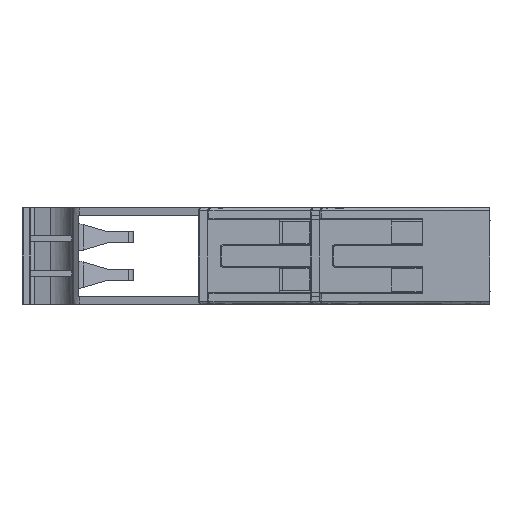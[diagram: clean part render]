
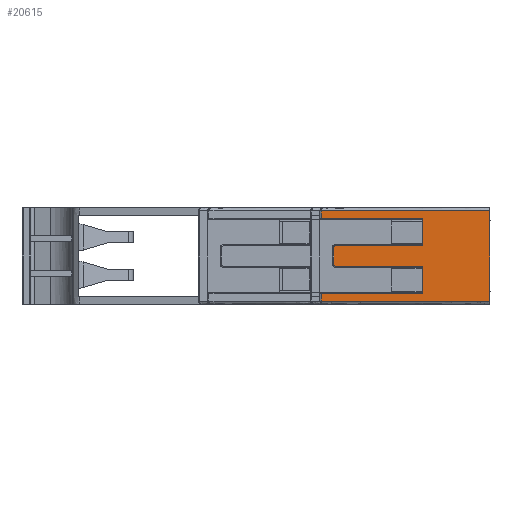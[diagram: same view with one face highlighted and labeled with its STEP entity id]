
A CAD part, left-side view. The second image highlights one B-rep face of the part: STEP entity #20615.
In plain terms, the highlighted free-form (B-spline) face has degree [1, 1] with [2, 2] control points.
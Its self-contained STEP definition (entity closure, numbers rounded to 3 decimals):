
#9759=CARTESIAN_POINT('',(367.964,189.408,-0.6));
#9760=VERTEX_POINT('',#9759);
#9761=CARTESIAN_POINT('',(368.119,216.509,-0.6));
#9762=VERTEX_POINT('',#9761);
#9763=CARTESIAN_POINT('',(367.964,189.408,-0.6));
#9764=CARTESIAN_POINT('',(368.119,216.509,-0.6));
#9765=QUASI_UNIFORM_CURVE('',1,(#9763,#9764),.UNSPECIFIED.,.F.,.U.);
#9766=EDGE_CURVE('',#9760,#9762,#9765,.T.);
#17047=CARTESIAN_POINT('',(367.964,189.408,13.9));
#17048=VERTEX_POINT('',#17047);
#17069=CARTESIAN_POINT('',(368.119,216.509,13.9));
#17070=VERTEX_POINT('',#17069);
#17081=CARTESIAN_POINT('',(367.964,189.408,13.9));
#17082=CARTESIAN_POINT('',(368.119,216.509,13.9));
#17083=QUASI_UNIFORM_CURVE('',1,(#17081,#17082),.UNSPECIFIED.,.F.,.U.);
#17084=EDGE_CURVE('',#17048,#17070,#17083,.T.);
#17194=CARTESIAN_POINT('',(367.964,189.408,13.9));
#17195=CARTESIAN_POINT('',(367.964,189.408,-0.6));
#17196=QUASI_UNIFORM_CURVE('',1,(#17194,#17195),.UNSPECIFIED.,.F.,.U.);
#17197=EDGE_CURVE('',#17048,#9760,#17196,.T.);
#19790=CARTESIAN_POINT('',(368.119,216.509,0.64));
#19791=VERTEX_POINT('',#19790);
#19807=CARTESIAN_POINT('',(368.026,200.207,0.64));
#19808=VERTEX_POINT('',#19807);
#19809=CARTESIAN_POINT('',(368.026,200.207,0.64));
#19810=CARTESIAN_POINT('',(368.119,216.509,0.64));
#19811=QUASI_UNIFORM_CURVE('',1,(#19809,#19810),.UNSPECIFIED.,.F.,.U.);
#19812=EDGE_CURVE('',#19808,#19791,#19811,.T.);
#19950=CARTESIAN_POINT('',(368.119,216.509,0.64));
#19951=CARTESIAN_POINT('',(368.119,216.509,-0.6));
#19952=QUASI_UNIFORM_CURVE('',1,(#19950,#19951),.UNSPECIFIED.,.F.,.U.);
#19953=EDGE_CURVE('',#19791,#9762,#19952,.T.);
#20082=CARTESIAN_POINT('',(368.106,214.208,8.26));
#20083=VERTEX_POINT('',#20082);
#20099=CARTESIAN_POINT('',(368.026,200.207,8.26));
#20100=VERTEX_POINT('',#20099);
#20101=CARTESIAN_POINT('',(368.026,200.207,8.26));
#20102=CARTESIAN_POINT('',(368.106,214.208,8.26));
#20103=QUASI_UNIFORM_CURVE('',1,(#20101,#20102),.UNSPECIFIED.,.F.,.U.);
#20104=EDGE_CURVE('',#20100,#20083,#20103,.T.);
#20144=CARTESIAN_POINT('',(368.026,200.207,5.04));
#20145=VERTEX_POINT('',#20144);
#20146=CARTESIAN_POINT('',(368.026,200.207,0.64));
#20147=CARTESIAN_POINT('',(368.026,200.207,5.04));
#20148=QUASI_UNIFORM_CURVE('',1,(#20146,#20147),.UNSPECIFIED.,.F.,.U.);
#20149=EDGE_CURVE('',#19808,#20145,#20148,.T.);
#20189=CARTESIAN_POINT('',(368.106,214.208,5.04));
#20190=VERTEX_POINT('',#20189);
#20191=CARTESIAN_POINT('',(368.106,214.208,5.04));
#20192=CARTESIAN_POINT('',(368.026,200.207,5.04));
#20193=QUASI_UNIFORM_CURVE('',1,(#20191,#20192),.UNSPECIFIED.,.F.,.U.);
#20194=EDGE_CURVE('',#20190,#20145,#20193,.T.);
#20384=CARTESIAN_POINT('',(368.108,214.508,7.96));
#20385=VERTEX_POINT('',#20384);
#20393=CARTESIAN_POINT('',(368.108,214.508,7.96));
#20394=CARTESIAN_POINT('',(368.108,214.508,8.012));
#20395=CARTESIAN_POINT('',(368.107,214.48,8.117));
#20396=CARTESIAN_POINT('',(368.107,214.365,8.232));
#20397=CARTESIAN_POINT('',(368.106,214.261,8.26));
#20398=CARTESIAN_POINT('',(368.106,214.208,8.26));
#20399=B_SPLINE_CURVE_WITH_KNOTS('',3,(#20393,#20394,#20395,#20396,#20397,#20398),.UNSPECIFIED.,.F.,.U.,(4,1,1,4),(0.,0.157,0.314,0.471),.UNSPECIFIED.);
#20400=EDGE_CURVE('',#20385,#20083,#20399,.T.);
#20422=CARTESIAN_POINT('',(368.108,214.508,5.34));
#20423=VERTEX_POINT('',#20422);
#20437=CARTESIAN_POINT('',(368.108,214.508,7.96));
#20438=CARTESIAN_POINT('',(368.108,214.508,5.34));
#20439=QUASI_UNIFORM_CURVE('',1,(#20437,#20438),.UNSPECIFIED.,.F.,.U.);
#20440=EDGE_CURVE('',#20385,#20423,#20439,.T.);
#20498=CARTESIAN_POINT('',(368.106,214.208,5.04));
#20499=CARTESIAN_POINT('',(368.106,214.261,5.04));
#20500=CARTESIAN_POINT('',(368.107,214.365,5.068));
#20501=CARTESIAN_POINT('',(368.107,214.48,5.183));
#20502=CARTESIAN_POINT('',(368.108,214.508,5.288));
#20503=CARTESIAN_POINT('',(368.108,214.508,5.34));
#20504=B_SPLINE_CURVE_WITH_KNOTS('',3,(#20498,#20499,#20500,#20501,#20502,#20503),.UNSPECIFIED.,.F.,.U.,(4,1,1,4),(-0.471,-0.314,-0.157,0.),.UNSPECIFIED.);
#20505=EDGE_CURVE('',#20190,#20423,#20504,.T.);
#20528=CARTESIAN_POINT('',(368.026,200.207,12.66));
#20529=VERTEX_POINT('',#20528);
#20530=CARTESIAN_POINT('',(368.026,200.207,8.26));
#20531=CARTESIAN_POINT('',(368.026,200.207,12.66));
#20532=QUASI_UNIFORM_CURVE('',1,(#20530,#20531),.UNSPECIFIED.,.F.,.U.);
#20533=EDGE_CURVE('',#20100,#20529,#20532,.T.);
#20573=CARTESIAN_POINT('',(368.119,216.509,12.66));
#20574=VERTEX_POINT('',#20573);
#20575=CARTESIAN_POINT('',(368.119,216.509,12.66));
#20576=CARTESIAN_POINT('',(368.026,200.207,12.66));
#20577=QUASI_UNIFORM_CURVE('',1,(#20575,#20576),.UNSPECIFIED.,.F.,.U.);
#20578=EDGE_CURVE('',#20574,#20529,#20577,.T.);
#20590=CARTESIAN_POINT('',(367.964,189.408,13.9));
#20591=CARTESIAN_POINT('',(368.119,216.509,13.9));
#20592=CARTESIAN_POINT('',(367.964,189.408,-0.6));
#20593=CARTESIAN_POINT('',(368.119,216.509,-0.6));
#20594=B_SPLINE_SURFACE_WITH_KNOTS('',1,1,((#20590,#20592),(#20591,#20593)),.PLANE_SURF.,.F.,.F.,.U.,(2,2),(2,2),(0.,27.102),(0.5,15.),.UNSPECIFIED.);
#20595=ORIENTED_EDGE('',*,*,#20533,.F.);
#20596=ORIENTED_EDGE('',*,*,#20104,.T.);
#20597=ORIENTED_EDGE('',*,*,#20400,.F.);
#20598=ORIENTED_EDGE('',*,*,#20440,.T.);
#20599=ORIENTED_EDGE('',*,*,#20505,.F.);
#20600=ORIENTED_EDGE('',*,*,#20194,.T.);
#20601=ORIENTED_EDGE('',*,*,#20149,.F.);
#20602=ORIENTED_EDGE('',*,*,#19812,.T.);
#20603=ORIENTED_EDGE('',*,*,#19953,.T.);
#20604=ORIENTED_EDGE('',*,*,#9766,.F.);
#20605=ORIENTED_EDGE('',*,*,#17197,.F.);
#20606=ORIENTED_EDGE('',*,*,#17084,.T.);
#20607=CARTESIAN_POINT('',(368.119,216.509,13.9));
#20608=CARTESIAN_POINT('',(368.119,216.509,12.66));
#20609=QUASI_UNIFORM_CURVE('',1,(#20607,#20608),.UNSPECIFIED.,.F.,.U.);
#20610=EDGE_CURVE('',#17070,#20574,#20609,.T.);
#20611=ORIENTED_EDGE('',*,*,#20610,.T.);
#20612=ORIENTED_EDGE('',*,*,#20578,.T.);
#20613=EDGE_LOOP('',(#20595,#20596,#20597,#20598,#20599,#20600,#20601,#20602,#20603,#20604,#20605,#20606,#20611,#20612));
#20614=FACE_OUTER_BOUND('',#20613,.T.);
#20615=ADVANCED_FACE('',(#20614),#20594,.T.);
